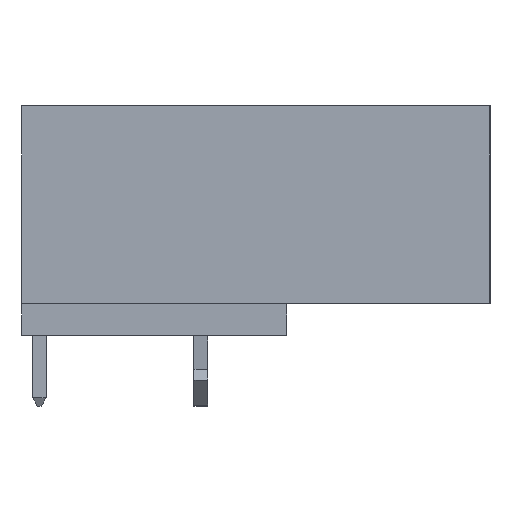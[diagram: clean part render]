
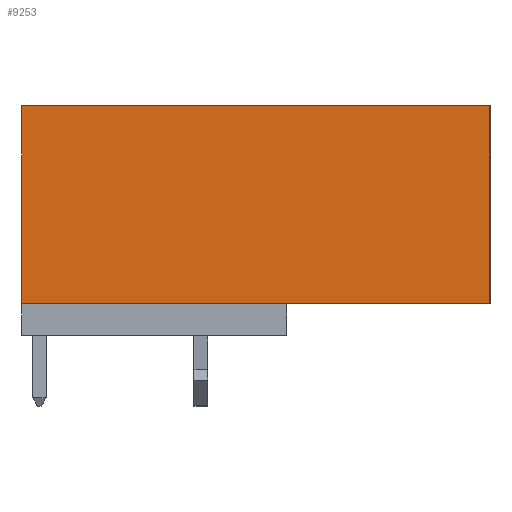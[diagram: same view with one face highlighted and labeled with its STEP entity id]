
A CAD part, left-side view. The second image highlights one B-rep face of the part: STEP entity #9253.
In plain terms, the highlighted planar face has unit normal (-1, 0, 0).
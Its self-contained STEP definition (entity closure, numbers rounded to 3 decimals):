
#867 = LINE ( 'NONE', #8701, #5467 ) ;
#1164 = DIRECTION ( 'NONE',  ( 0., 0., -1. ) ) ;
#1230 = CARTESIAN_POINT ( 'NONE',  ( -50.606, 11.069, 5.425 ) ) ;
#1667 = VERTEX_POINT ( 'NONE', #7492 ) ;
#2772 = EDGE_CURVE ( 'NONE', #8846, #8250, #11402, .T. ) ;
#3635 = VERTEX_POINT ( 'NONE', #10079 ) ;
#3922 = CARTESIAN_POINT ( 'NONE',  ( -50.606, 11.069, -3.925 ) ) ;
#4020 = LINE ( 'NONE', #4102, #16403 ) ;
#4102 = CARTESIAN_POINT ( 'NONE',  ( -50.606, -11.031, 5.425 ) ) ;
#4128 = AXIS2_PLACEMENT_3D ( 'NONE', #1230, #10587, #12031 ) ;
#5154 = ORIENTED_EDGE ( 'NONE', *, *, #2772, .T. ) ;
#5187 = EDGE_CURVE ( 'NONE', #3635, #1667, #4020, .T. ) ;
#5467 = VECTOR ( 'NONE', #13943, 1000. ) ;
#6674 = CARTESIAN_POINT ( 'NONE',  ( -50.606, 11.069, 5.425 ) ) ;
#7096 = ORIENTED_EDGE ( 'NONE', *, *, #15150, .T. ) ;
#7107 = EDGE_LOOP ( 'NONE', ( #7513, #15289, #5154, #7096 ) ) ;
#7492 = CARTESIAN_POINT ( 'NONE',  ( -50.606, -11.031, -3.925 ) ) ;
#7513 = ORIENTED_EDGE ( 'NONE', *, *, #5187, .F. ) ;
#8250 = VERTEX_POINT ( 'NONE', #3922 ) ;
#8701 = CARTESIAN_POINT ( 'NONE',  ( -50.606, 11.069, -3.925 ) ) ;
#8846 = VERTEX_POINT ( 'NONE', #11076 ) ;
#9253 = ADVANCED_FACE ( 'NONE', ( #11865 ), #10665, .F. ) ;
#10079 = CARTESIAN_POINT ( 'NONE',  ( -50.606, -11.031, 5.425 ) ) ;
#10587 = DIRECTION ( 'NONE',  ( 1., 0., 0. ) ) ;
#10665 = PLANE ( 'NONE',  #4128 ) ;
#11076 = CARTESIAN_POINT ( 'NONE',  ( -50.606, 11.069, 5.425 ) ) ;
#11402 = LINE ( 'NONE', #12607, #13520 ) ;
#11865 = FACE_OUTER_BOUND ( 'NONE', #7107, .T. ) ;
#12031 = DIRECTION ( 'NONE',  ( 0., -1., 0. ) ) ;
#12607 = CARTESIAN_POINT ( 'NONE',  ( -50.606, 11.069, 5.425 ) ) ;
#12688 = DIRECTION ( 'NONE',  ( 0., 0., -1. ) ) ;
#13049 = VECTOR ( 'NONE', #13363, 1000. ) ;
#13363 = DIRECTION ( 'NONE',  ( 0., 1., 0. ) ) ;
#13520 = VECTOR ( 'NONE', #12688, 1000. ) ;
#13880 = EDGE_CURVE ( 'NONE', #3635, #8846, #14746, .T. ) ;
#13943 = DIRECTION ( 'NONE',  ( 0., -1., 0. ) ) ;
#14746 = LINE ( 'NONE', #6674, #13049 ) ;
#15150 = EDGE_CURVE ( 'NONE', #8250, #1667, #867, .T. ) ;
#15289 = ORIENTED_EDGE ( 'NONE', *, *, #13880, .T. ) ;
#16403 = VECTOR ( 'NONE', #1164, 1000. ) ;
